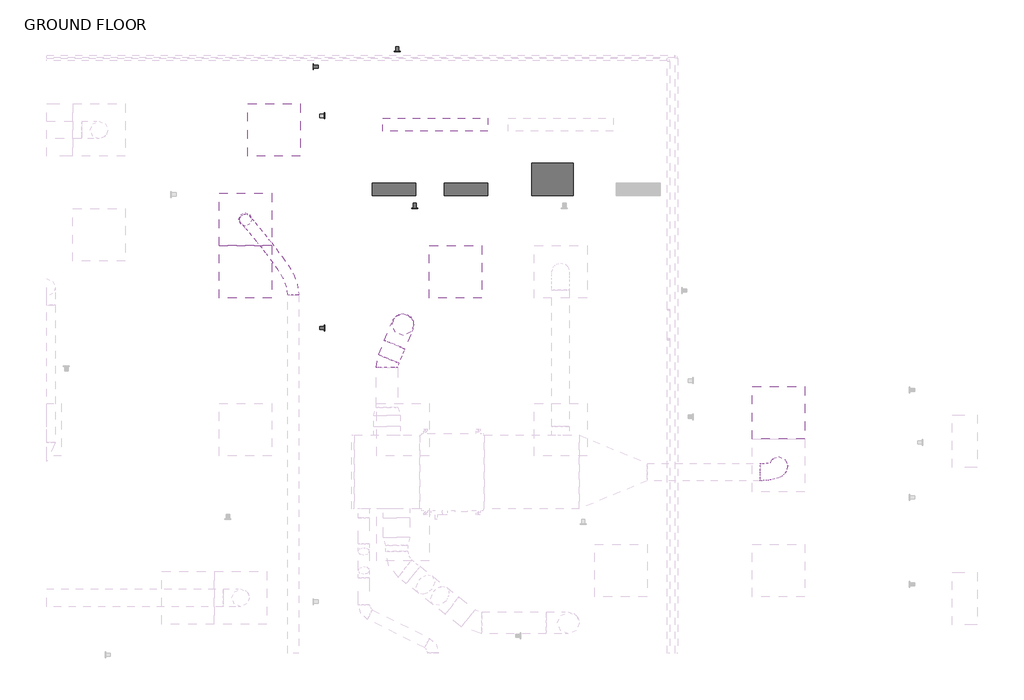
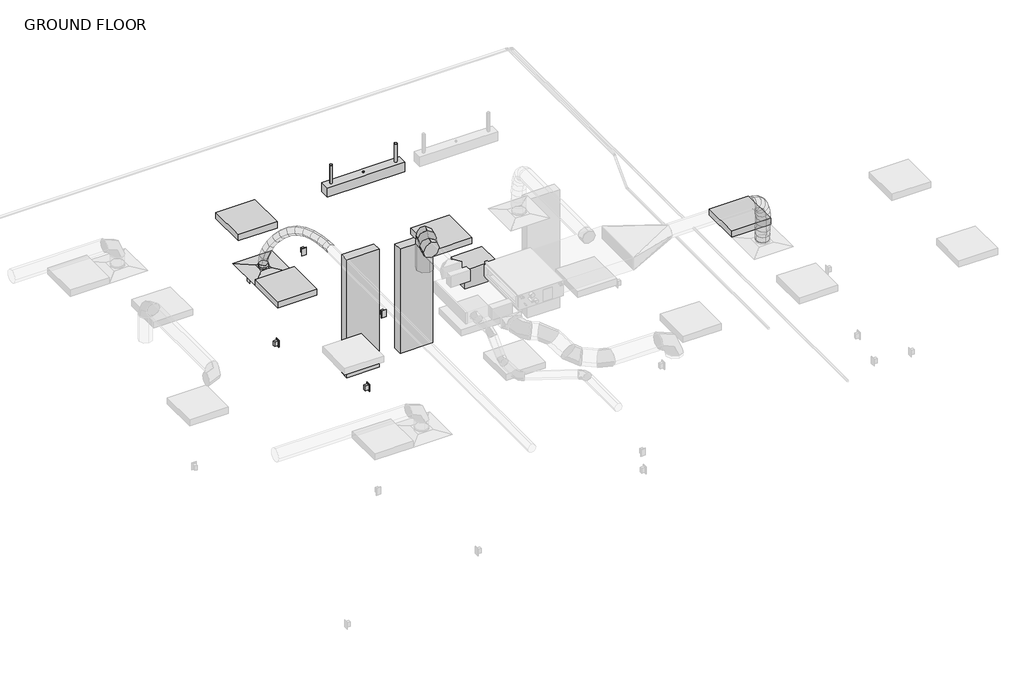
# One storey, part 20 of 21: 5 light fixtures, 5 proxies, 4 duct segments, 3 duct fittings, 3 switching devices, 1 air terminal.
"""IFC4 building model written with IfcOpenShell, lengths in millimetres."""

from ifc_helpers import new_model, si_unit, point, frame, frame_2d, origin, place, context, project, spatial, circle_curve, ellipse_curve, trimmed, segment, composite_curve, outline, extrude, transform, mapped, element, save
from ifc_brep_helpers import plane_surface, cylinder_surface, advanced_brep
from components import air_terminal_52af7c74, proxy_15_kva_662d63cf, duplex_receptacle_countertop_10251bba, lighting_and_appliance_panelboard_208v_mcb_surface_400_a_1492eeec, lighting_and_appliance_panelboard_480v_mcb_surface_400_a_65176da0, round_elbow_1_d_6fec3262, round_elbow_1_d_5b88d7e2, round_transition_angle_45_degree_fe5c3047, suspended_fluorescent_strip_non_hosted_strip_light_1x4_120v_4ea4ccb3, troffer_corner_insert_2x2_3lamp_e67c7f8f

model = new_model("IFC4")

# Units and contexts
model_context = context("Model", 3, world=origin())
ifc_project = project(units=[si_unit("LENGTHUNIT", "METRE", prefix="MILLI")], contexts=[model_context])

# Site, building, storey
site = spatial("IfcSite", under=ifc_project)
building = spatial("IfcBuilding", under=site)
storey = spatial("IfcBuildingStorey", under=building, Name="GROUND FLOOR", Elevation=30480.0)

# Air terminal
placement = place(None, origin())
air_terminal_shape = air_terminal_52af7c74(model_context)
element("IfcAirTerminal", 1, ObjectType="Supply Diffuser - Rectangular Face Round Neck - Hosted : 24\"x24\" Face 6\" Neck - Hosted", at=placement, inside=storey, context=model_context, shape_type="MappedRepresentation", body=[
    mapped(air_terminal_shape, transform((8382.9545393, 5773.1445005, 33223.2), x_axis=(0.0, -1.0, 0.0), y_axis=(-1.0, 0.0, 0.0), z_axis=(0.0, 0.0, -1.0))),
])

# Proxies
proxy_15_kva_shape = proxy_15_kva_662d63cf(model_context)
element("IfcBuildingElementProxy", 2, Name="Dry Type Transformer - 480-208Y120 - NEMA Type 3R : 15 kVA", ObjectType="Dry Type Transformer - 480-208Y120 - NEMA Type 3R : 15 kVA", at=placement, inside=storey, context=model_context, shape_type="MappedRepresentation", body=[
    mapped(proxy_15_kva_shape, transform((11944.9930047, 6049.3695005, 31699.2), x_axis=(-1.0, 0.0, 0.0), y_axis=(0.0, 0.0, 1.0), z_axis=(0.0, 1.0, 0.0))),
])
duplex_receptacle_countertop_shape = duplex_receptacle_countertop_10251bba(model_context)
element("IfcBuildingElementProxy", 3, Name="Duplex Receptacle : Countertop", ObjectType="Duplex Receptacle : Countertop", at=placement, inside=storey, context=model_context, shape_type="MappedRepresentation", body=[
    mapped(duplex_receptacle_countertop_shape, transform((10347.0005995, 5906.4945005, 31699.2), x_axis=(1.0, 0.0, 0.0), y_axis=(0.0, 0.0, 1.0), z_axis=(0.0, -1.0, 0.0))),
])
element("IfcBuildingElementProxy", 4, Name="Duplex Receptacle : Standard", ObjectType="Duplex Receptacle : Standard", at=placement, inside=storey, context=model_context, shape_type="MappedRepresentation", body=[
    mapped(duplex_receptacle_countertop_shape, transform((9297.3545393, 6976.0330864, 30937.2), x_axis=(0.0, 1.0, 0.0), y_axis=(0.0, 0.0, 1.0), z_axis=(1.0, 0.0, 0.0))),
])
lighting_and_appliance_panelboard_208v_mcb_surface_400_a_shape = lighting_and_appliance_panelboard_208v_mcb_surface_400_a_1492eeec(model_context)
element("IfcBuildingElementProxy", 5, Name="Lighting and Appliance Panelboard - 208V MCB - Surface : 400 A", ObjectType="Lighting and Appliance Panelboard - 208V MCB - Surface : 400 A", at=placement, inside=storey, context=model_context, shape_type="MappedRepresentation", body=[
    mapped(lighting_and_appliance_panelboard_208v_mcb_surface_400_a_shape, transform((10202.0902446, 6049.3695005, 31935.3056703), x_axis=(-1.0, 0.0, 0.0), y_axis=(0.0, 0.0, 1.0), z_axis=(0.0, 1.0, 0.0))),
])
lighting_and_appliance_panelboard_480v_mcb_surface_400_a_shape = lighting_and_appliance_panelboard_480v_mcb_surface_400_a_65176da0(model_context)
element("IfcBuildingElementProxy", 6, Name="Lighting and Appliance Panelboard - 480V MCB - Surface : 400 A", ObjectType="Lighting and Appliance Panelboard - 480V MCB - Surface : 400 A", at=placement, inside=storey, context=model_context, shape_type="MappedRepresentation", body=[
    mapped(lighting_and_appliance_panelboard_480v_mcb_surface_400_a_shape, transform((11043.3905267, 6049.3695005, 32181.8), x_axis=(-1.0, 0.0, 0.0), y_axis=(0.0, 0.0, 1.0), z_axis=(0.0, 1.0, 0.0))),
])

# Duct fittings
round_elbow_1_d_shape = round_elbow_1_d_6fec3262(model_context)
element("IfcDuctFitting", 7, ObjectType="Round Elbow : 1 D", at=placement, inside=storey, context=model_context, shape_type="MappedRepresentation", body=[
    mapped(round_elbow_1_d_shape, transform((10211.7545393, 4553.9445005, 33992.34375), x_axis=(0.0, 0.0, 1.0), y_axis=(-0.3851088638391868, -0.9228711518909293, 0.0), z_axis=(0.9228711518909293, -0.3851088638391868, 0.0))),
])
round_elbow_1_d_2_shape = round_elbow_1_d_5b88d7e2(model_context)
element("IfcDuctFitting", 8, ObjectType="Round Elbow : 1 D", at=placement, inside=storey, context=model_context, shape_type="MappedRepresentation", body=[
    mapped(round_elbow_1_d_2_shape, transform((10025.6343566, 4107.927897, 33992.34375), x_axis=(-0.3851088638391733, -0.9228711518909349, 0.0), y_axis=(0.9228711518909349, -0.3851088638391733, 0.0), z_axis=(0.0, 0.0, 1.0))),
])
round_transition_angle_45_degree_shape = round_transition_angle_45_degree_fe5c3047(model_context)
element("IfcDuctFitting", 9, ObjectType="Round Transition - Angle : 45 Degree", at=placement, inside=storey, context=model_context, shape_type="MappedRepresentation", body=[
    mapped(round_transition_angle_45_degree_shape, transform((8382.9545393, 5773.1445005, 33277.175), x_axis=(0.0, 0.0, 1.0), y_axis=(-1.0, 0.0, 0.0), z_axis=(0.0, -1.0, 0.0))),
])

# Duct segments
element("IfcDuctSegment", 10, ObjectType="Flex - Round", at=placement, inside=storey, context=model_context, shape_type="AdvancedBrep", body=[
    advanced_brep(
    [(8875.0795393, 4896.3149962, 33877.25), (8938.5795393, 4896.3149962, 33813.75), (9002.0795393, 4896.3149962, 33877.25), (8938.5795393, 4896.3149962, 33940.75), (8875.0795393, 4900.3038046, 33877.25), (8938.5795393, 4909.5361865, 33813.75), (9002.0795393, 4909.5539532, 33877.25), (8938.5795393, 4900.3215713, 33940.75), (8338.604224, 5727.6989338, 33307.8355122), (8337.5089726, 5817.4948158, 33307.8355122), (8427.3048546, 5818.5900672, 33307.8355122), (8428.400106, 5728.7941852, 33307.8355122), (8861.7752013, 4990.6695027, 33890.5032308), (8922.2729998, 5020.2934315, 33829.9938996), (8985.5119056, 5022.0846017, 33893.7539908), (8925.0141071, 4992.4606728, 33954.263322), (8825.981243, 5084.0617016, 33920.4442463), (8880.6868552, 5128.7983771, 33864.779977), (8941.8409065, 5136.0292683, 33930.2840123), (8887.1352943, 5091.2925928, 33985.9482816), (8772.9159642, 5175.8416872, 33952.6027456), (8825.4102432, 5224.4030127, 33898.2785833), (8881.0746783, 5241.1285661, 33967.1094233), (8828.5803992, 5192.5672406, 34021.4335856), (8709.4846671, 5265.8815311, 33970.3939375), (8765.8933553, 5308.8864072, 33914.9718629), (8811.534355, 5339.8400877, 33986.6140732), (8755.1256668, 5296.8352116, 34042.0361478), (8642.7696454, 5354.1391576, 33958.5230341), (8707.1321016, 5386.6219555, 33904.5162091), (8740.4276847, 5433.9074476, 33973.9617439), (8676.0652285, 5401.4246498, 34027.9685689), (8576.8132371, 5438.7318064, 33915.6918877), (8648.5038184, 5461.8158886, 33866.4438423), (8671.3759607, 5522.4700054, 33929.120544), (8599.6853793, 5499.3859232, 33978.3685895), (8514.1867553, 5517.0579007, 33847.0003565), (8591.332672, 5533.3190688, 33803.7359672), (8606.6128367, 5603.4683693, 33858.0854478), (8529.46692, 5587.2072012, 33901.3498371), (8457.422537, 5586.5831577, 33757.8199861), (8538.6709568, 5597.8195479, 33721.0009027), (8548.3996791, 5674.7682985, 33766.6286972), (8467.1512592, 5663.5319082, 33803.4477805), (8409.0358019, 5644.8113766, 33653.6918895), (8493.5148014, 5652.1601125, 33623.8250032), (8499.0149716, 5734.1974695, 33660.3529674), (8414.535972, 5726.8487337, 33690.2198537), (8371.4969323, 5689.3105329, 33540.2274557), (8458.6070173, 5693.5403394, 33518.3132496), (8460.7820351, 5779.5193834, 33544.7906573), (8373.6719501, 5775.2895769, 33566.7048634), (8347.2298434, 5717.7086856, 33423.0472025), (8436.3228222, 5719.618044, 33410.7079394), (8436.070658, 5808.437457, 33425.465037), (8346.9776792, 5806.5280986, 33437.8043001), (8338.604224, 5727.6989338, 33314.7175033), (8428.400106, 5728.7941852, 33311.2060458), (8427.3048546, 5818.5900672, 33315.3747588), (8337.5089726, 5817.4948158, 33318.8862163)],
    [
        (0, 1, circle_curve(frame((8938.5795393, 4896.3149962, 33877.25), z_axis=(0.0, -1.0, 0.0), x_axis=(-1.0, 0.0, 0.0)), 63.5)),
        (1, 2, circle_curve(frame((8938.5795393, 4896.3149962, 33877.25), z_axis=(0.0, -1.0, 0.0), x_axis=(-1.0, 0.0, 0.0)), 63.5)),
        (2, 3, circle_curve(frame((8938.5795393, 4896.3149962, 33877.25), z_axis=(0.0, -1.0, 0.0), x_axis=(-1.0, 0.0, 0.0)), 63.5)),
        (3, 0, circle_curve(frame((8938.5795393, 4896.3149962, 33877.25), z_axis=(0.0, -1.0, 0.0), x_axis=(-1.0, 0.0, 0.0)), 63.5)),
        (0, 4),
        (4, 5, ellipse_curve(frame((8938.5795393, 4904.9288789, 33877.25), z_axis=(0.0724539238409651, -0.9947568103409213, -0.07217559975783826), x_axis=(-0.7047515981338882, -0.10226870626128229, 0.7020443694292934)), 63.8346974, 63.5)),
        (5, 1),
        (5, 6, ellipse_curve(frame((8938.5795393, 4904.9288789, 33877.25), z_axis=(0.0724539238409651, -0.9947568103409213, -0.07217559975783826), x_axis=(-0.7047515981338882, -0.10226870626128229, 0.7020443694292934)), 63.8346974, 63.5)),
        (6, 2),
        (6, 7, ellipse_curve(frame((8938.5795393, 4904.9288789, 33877.25), z_axis=(0.0724539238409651, -0.9947568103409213, -0.07217559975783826), x_axis=(-0.7047515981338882, -0.10226870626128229, 0.7020443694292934)), 63.8346974, 63.5)),
        (7, 3),
        (7, 4, ellipse_curve(frame((8938.5795393, 4904.9288789, 33877.25), z_axis=(0.0724539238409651, -0.9947568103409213, -0.07217559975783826), x_axis=(-0.7047515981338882, -0.10226870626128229, 0.7020443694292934)), 63.8346974, 63.5)),
        (8, 9, circle_curve(frame((8382.9545393, 5773.1445005, 33307.8355122), z_axis=(0.0, 0.0, -1.0), x_axis=(-0.6984301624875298, -0.7156782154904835, 0.0)), 63.5)),
        (9, 10, circle_curve(frame((8382.9545393, 5773.1445005, 33307.8355122), z_axis=(0.0, 0.0, -1.0), x_axis=(-0.6984301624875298, -0.7156782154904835, 0.0)), 63.5)),
        (10, 11, circle_curve(frame((8382.9545393, 5773.1445005, 33307.8355122), z_axis=(0.0, 0.0, -1.0), x_axis=(-0.6984301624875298, -0.7156782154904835, 0.0)), 63.5)),
        (11, 8, circle_curve(frame((8382.9545393, 5773.1445005, 33307.8355122), z_axis=(0.0, 0.0, -1.0), x_axis=(-0.6984301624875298, -0.7156782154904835, 0.0)), 63.5)),
        (4, 12),
        (12, 13, ellipse_curve(frame((8923.6435535, 5006.3770522, 33892.1286108), z_axis=(0.2455671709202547, -0.9447748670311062, -0.21701892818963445), x_axis=(-0.7668880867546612, -0.3262774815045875, 0.5526532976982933)), 64.0396622, 63.5)),
        (13, 5),
        (13, 14, ellipse_curve(frame((8923.6435535, 5006.3770522, 33892.1286108), z_axis=(0.2455671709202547, -0.9447748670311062, -0.21701892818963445), x_axis=(-0.7668880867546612, -0.3262774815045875, 0.5526532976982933)), 64.0396622, 63.5)),
        (14, 6),
        (14, 15, ellipse_curve(frame((8923.6435535, 5006.3770522, 33892.1286108), z_axis=(0.2455671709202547, -0.9447748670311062, -0.21701892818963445), x_axis=(-0.7668880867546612, -0.3262774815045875, 0.5526532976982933)), 64.0396622, 63.5)),
        (15, 7),
        (15, 12, ellipse_curve(frame((8923.6435535, 5006.3770522, 33892.1286108), z_axis=(0.2455671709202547, -0.9447748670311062, -0.21701892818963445), x_axis=(-0.7668880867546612, -0.3262774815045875, 0.5526532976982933)), 64.0396622, 63.5)),
        (12, 16),
        (16, 17, ellipse_curve(frame((8883.9110747, 5110.0454849, 33925.3641293), z_axis=(0.4120992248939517, -0.8639704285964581, -0.2893602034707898), x_axis=(-0.8993219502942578, -0.4366794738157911, 0.02304488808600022)), 63.6826798, 63.5)),
        (17, 13),
        (17, 18, ellipse_curve(frame((8883.9110747, 5110.0454849, 33925.3641293), z_axis=(0.4120992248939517, -0.8639704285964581, -0.2893602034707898), x_axis=(-0.8993219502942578, -0.4366794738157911, 0.02304488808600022)), 63.6826798, 63.5)),
        (18, 14),
        (18, 19, ellipse_curve(frame((8883.9110747, 5110.0454849, 33925.3641293), z_axis=(0.4120992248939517, -0.8639704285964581, -0.2893602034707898), x_axis=(-0.8993219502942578, -0.4366794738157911, 0.02304488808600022)), 63.6826798, 63.5)),
        (19, 15),
        (19, 16, ellipse_curve(frame((8883.9110747, 5110.0454849, 33925.3641293), z_axis=(0.4120992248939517, -0.8639704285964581, -0.2893602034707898), x_axis=(-0.8993219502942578, -0.4366794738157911, 0.02304488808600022)), 63.6826798, 63.5)),
        (16, 20),
        (20, 21, ellipse_curve(frame((8826.9953212, 5208.4851266, 33959.8560844), z_axis=(0.5254508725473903, -0.820371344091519, -0.22559308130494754), x_axis=(-0.5598715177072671, -0.13373708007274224, -0.8177152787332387)), 63.7040983, 63.5)),
        (21, 17),
        (21, 22, ellipse_curve(frame((8826.9953212, 5208.4851266, 33959.8560844), z_axis=(0.5254508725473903, -0.820371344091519, -0.22559308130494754), x_axis=(-0.5598715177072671, -0.13373708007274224, -0.8177152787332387)), 63.7040983, 63.5)),
        (22, 18),
        (22, 23, ellipse_curve(frame((8826.9953212, 5208.4851266, 33959.8560844), z_axis=(0.5254508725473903, -0.820371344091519, -0.22559308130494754), x_axis=(-0.5598715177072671, -0.13373708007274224, -0.8177152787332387)), 63.7040983, 63.5)),
        (23, 19),
        (23, 20, ellipse_curve(frame((8826.9953212, 5208.4851266, 33959.8560844), z_axis=(0.5254508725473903, -0.820371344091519, -0.22559308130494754), x_axis=(-0.5598715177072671, -0.13373708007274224, -0.8177152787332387)), 63.7040983, 63.5)),
        (20, 24),
        (24, 25, ellipse_curve(frame((8760.509511, 5302.8608094, 33978.5040053), z_axis=(0.5893883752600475, -0.8074107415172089, -0.026631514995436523), x_axis=(-0.11562901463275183, -0.05168788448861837, -0.9919467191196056)), 64.0792607, 63.5)),
        (25, 21),
        (25, 26, ellipse_curve(frame((8760.509511, 5302.8608094, 33978.5040053), z_axis=(0.5893883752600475, -0.8074107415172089, -0.026631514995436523), x_axis=(-0.11562901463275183, -0.05168788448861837, -0.9919467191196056)), 64.0792607, 63.5)),
        (26, 22),
        (26, 27, ellipse_curve(frame((8760.509511, 5302.8608094, 33978.5040053), z_axis=(0.5893883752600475, -0.8074107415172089, -0.026631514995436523), x_axis=(-0.11562901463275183, -0.05168788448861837, -0.9919467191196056)), 64.0792607, 63.5)),
        (27, 23),
        (27, 24, ellipse_curve(frame((8760.509511, 5302.8608094, 33978.5040053), z_axis=(0.5893883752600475, -0.8074107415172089, -0.026631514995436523), x_axis=(-0.11562901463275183, -0.05168788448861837, -0.9919467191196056)), 64.0792607, 63.5)),
        (24, 28),
        (28, 29, ellipse_curve(frame((8691.598665, 5394.0233026, 33966.242389), z_axis=(0.5908188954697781, -0.7699676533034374, 0.24100382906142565), x_axis=(0.10468290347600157, -0.22303027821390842, -0.9691743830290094)), 64.0979367, 63.5)),
        (29, 25),
        (29, 30, ellipse_curve(frame((8691.598665, 5394.0233026, 33966.242389), z_axis=(0.5908188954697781, -0.7699676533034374, 0.24100382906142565), x_axis=(0.10468290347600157, -0.22303027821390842, -0.9691743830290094)), 64.0979367, 63.5)),
        (30, 26),
        (30, 31, ellipse_curve(frame((8691.598665, 5394.0233026, 33966.242389), z_axis=(0.5908188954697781, -0.7699676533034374, 0.24100382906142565), x_axis=(0.10468290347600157, -0.22303027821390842, -0.9691743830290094)), 64.0979367, 63.5)),
        (31, 27),
        (31, 28, ellipse_curve(frame((8691.598665, 5394.0233026, 33966.242389), z_axis=(0.5908188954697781, -0.7699676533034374, 0.24100382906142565), x_axis=(0.10468290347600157, -0.22303027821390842, -0.9691743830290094)), 64.0979367, 63.5)),
        (28, 32),
        (32, 33, ellipse_curve(frame((8624.0945989, 5480.6009059, 33922.4062159), z_axis=(0.5464575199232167, -0.6926016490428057, 0.47083663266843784), x_axis=(0.25322512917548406, -0.39924269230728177, -0.8811823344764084)), 63.8893967, 63.5)),
        (33, 29),
        (33, 34, ellipse_curve(frame((8624.0945989, 5480.6009059, 33922.4062159), z_axis=(0.5464575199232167, -0.6926016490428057, 0.47083663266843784), x_axis=(0.25322512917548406, -0.39924269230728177, -0.8811823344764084)), 63.8893967, 63.5)),
        (34, 30),
        (34, 35, ellipse_curve(frame((8624.0945989, 5480.6009059, 33922.4062159), z_axis=(0.5464575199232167, -0.6926016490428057, 0.47083663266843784), x_axis=(0.25322512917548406, -0.39924269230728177, -0.8811823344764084)), 63.8893967, 63.5)),
        (35, 31),
        (35, 32, ellipse_curve(frame((8624.0945989, 5480.6009059, 33922.4062159), z_axis=(0.5464575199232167, -0.6926016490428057, 0.47083663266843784), x_axis=(0.25322512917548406, -0.39924269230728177, -0.8811823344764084)), 63.8893967, 63.5)),
        (32, 36),
        (36, 37, ellipse_curve(frame((8560.399796, 5560.263135, 33852.5429021), z_axis=(0.4839202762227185, -0.5994034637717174, 0.6376022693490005), x_axis=(0.3667362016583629, -0.5226240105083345, -0.7696549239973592)), 63.763231, 63.5)),
        (37, 33),
        (37, 38, ellipse_curve(frame((8560.399796, 5560.263135, 33852.5429021), z_axis=(0.4839202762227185, -0.5994034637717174, 0.6376022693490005), x_axis=(0.3667362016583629, -0.5226240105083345, -0.7696549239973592)), 63.763231, 63.5)),
        (38, 34),
        (38, 39, ellipse_curve(frame((8560.399796, 5560.263135, 33852.5429021), z_axis=(0.4839202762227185, -0.5994034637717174, 0.6376022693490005), x_axis=(0.3667362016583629, -0.5226240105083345, -0.7696549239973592)), 63.763231, 63.5)),
        (39, 35),
        (39, 36, ellipse_curve(frame((8560.399796, 5560.263135, 33852.5429021), z_axis=(0.4839202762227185, -0.5994034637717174, 0.6376022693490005), x_axis=(0.3667362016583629, -0.5226240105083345, -0.7696549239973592)), 63.763231, 63.5)),
        (36, 40),
        (40, 41, ellipse_curve(frame((8502.911108, 5630.6757281, 33762.2243416), z_axis=(0.4135615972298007, -0.5024960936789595, 0.7592525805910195), x_axis=(0.45530595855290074, -0.6080085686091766, -0.650401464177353)), 63.7038498, 63.5)),
        (41, 37),
        (41, 42, ellipse_curve(frame((8502.911108, 5630.6757281, 33762.2243416), z_axis=(0.4135615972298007, -0.5024960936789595, 0.7592525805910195), x_axis=(0.45530595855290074, -0.6080085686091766, -0.650401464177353)), 63.7038498, 63.5)),
        (42, 38),
        (42, 43, ellipse_curve(frame((8502.911108, 5630.6757281, 33762.2243416), z_axis=(0.4135615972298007, -0.5024960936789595, 0.7592525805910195), x_axis=(0.45530595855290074, -0.6080085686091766, -0.650401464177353)), 63.7038498, 63.5)),
        (43, 39),
        (43, 40, ellipse_curve(frame((8502.911108, 5630.6757281, 33762.2243416), z_axis=(0.4135615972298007, -0.5024960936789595, 0.7592525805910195), x_axis=(0.45530595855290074, -0.6080085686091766, -0.650401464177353)), 63.7038498, 63.5)),
        (40, 44),
        (44, 45, ellipse_curve(frame((8454.0253867, 5689.5044231, 33657.0224284), z_axis=(0.3361041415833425, -0.4018113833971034, 0.8518107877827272), x_axis=(0.5274534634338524, -0.6689851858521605, -0.5236904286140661)), 63.6902982, 63.5)),
        (45, 41),
        (45, 46, ellipse_curve(frame((8454.0253867, 5689.5044231, 33657.0224284), z_axis=(0.3361041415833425, -0.4018113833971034, 0.8518107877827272), x_axis=(0.5274534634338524, -0.6689851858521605, -0.5236904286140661)), 63.6902982, 63.5)),
        (46, 42),
        (46, 47, ellipse_curve(frame((8454.0253867, 5689.5044231, 33657.0224284), z_axis=(0.3361041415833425, -0.4018113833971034, 0.8518107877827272), x_axis=(0.5274534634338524, -0.6689851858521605, -0.5236904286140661)), 63.6902982, 63.5)),
        (47, 43),
        (47, 44, ellipse_curve(frame((8454.0253867, 5689.5044231, 33657.0224284), z_axis=(0.3361041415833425, -0.4018113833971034, 0.8518107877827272), x_axis=(0.5274534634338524, -0.6689851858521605, -0.5236904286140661)), 63.6902982, 63.5)),
        (44, 48),
        (48, 49, ellipse_curve(frame((8416.1394837, 5734.4149581, 33542.5090565), z_axis=(0.24667702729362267, -0.2909118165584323, 0.9244029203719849), x_axis=(0.5870839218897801, -0.7140601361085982, -0.3813798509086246)), 63.7180133, 63.5)),
        (49, 45),
        (49, 50, ellipse_curve(frame((8416.1394837, 5734.4149581, 33542.5090565), z_axis=(0.24667702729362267, -0.2909118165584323, 0.9244029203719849), x_axis=(0.5870839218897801, -0.7140601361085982, -0.3813798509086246)), 63.7180133, 63.5)),
        (50, 46),
        (50, 51, ellipse_curve(frame((8416.1394837, 5734.4149581, 33542.5090565), z_axis=(0.24667702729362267, -0.2909118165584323, 0.9244029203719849), x_axis=(0.5870839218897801, -0.7140601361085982, -0.3813798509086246)), 63.7180133, 63.5)),
        (51, 47),
        (51, 48, ellipse_curve(frame((8416.1394837, 5734.4149581, 33542.5090565), z_axis=(0.24667702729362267, -0.2909118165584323, 0.9244029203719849), x_axis=(0.5870839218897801, -0.7140601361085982, -0.3813798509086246)), 63.7180133, 63.5)),
        (48, 52),
        (52, 53, ellipse_curve(frame((8391.6502507, 5763.0730713, 33424.2561198), z_axis=(0.1387827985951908, -0.1619308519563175, 0.97699423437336), x_axis=(0.6321873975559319, -0.7448878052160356, -0.21326333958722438)), 63.7796424, 63.5)),
        (53, 49),
        (53, 54, ellipse_curve(frame((8391.6502507, 5763.0730713, 33424.2561198), z_axis=(0.1387827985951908, -0.1619308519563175, 0.97699423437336), x_axis=(0.6321873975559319, -0.7448878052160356, -0.21326333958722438)), 63.7796424, 63.5)),
        (54, 50),
        (54, 55, ellipse_curve(frame((8391.6502507, 5763.0730713, 33424.2561198), z_axis=(0.1387827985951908, -0.1619308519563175, 0.97699423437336), x_axis=(0.6321873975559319, -0.7448878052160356, -0.21326333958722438)), 63.7796424, 63.5)),
        (55, 51),
        (55, 52, ellipse_curve(frame((8391.6502507, 5763.0730713, 33424.2561198), z_axis=(0.1387827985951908, -0.1619308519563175, 0.97699423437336), x_axis=(0.6321873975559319, -0.7448878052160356, -0.21326333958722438)), 63.7796424, 63.5)),
        (52, 56),
        (56, 57, ellipse_curve(frame((8382.9545393, 5773.1445005, 33315.046131), z_axis=(0.039592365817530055, -0.04585613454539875, 0.9981631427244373), x_axis=(0.6523186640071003, -0.755519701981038, -0.060583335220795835)), 63.6168551, 63.5)),
        (57, 53),
        (57, 58, ellipse_curve(frame((8382.9545393, 5773.1445005, 33315.046131), z_axis=(0.039592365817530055, -0.04585613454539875, 0.9981631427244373), x_axis=(0.6523186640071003, -0.755519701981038, -0.060583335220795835)), 63.6168551, 63.5)),
        (58, 54),
        (58, 59, ellipse_curve(frame((8382.9545393, 5773.1445005, 33315.046131), z_axis=(0.039592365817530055, -0.04585613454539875, 0.9981631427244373), x_axis=(0.6523186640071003, -0.755519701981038, -0.060583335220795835)), 63.6168551, 63.5)),
        (59, 55),
        (59, 56, ellipse_curve(frame((8382.9545393, 5773.1445005, 33315.046131), z_axis=(0.039592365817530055, -0.04585613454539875, 0.9981631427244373), x_axis=(0.6523186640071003, -0.755519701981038, -0.060583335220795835)), 63.6168551, 63.5)),
        (56, 8),
        (11, 57),
        (10, 58),
        (9, 59),
    ],
    [
        plane_surface(frame((8875.0795393, 4896.3149962, 33877.25), z_axis=(0.0, -1.0, 0.0), x_axis=(0.0, 0.0, 1.0))),
        cylinder_surface(frame((8938.5795393, 4896.3149962, 33877.25), z_axis=(0.0, -1.0, 0.0), x_axis=(-1.0, 0.0, 0.0)), 63.5),
        plane_surface(frame((8382.9545393, 5709.6445005, 33307.8355122), z_axis=(0.0, 0.0, -1.0), x_axis=(-1.0, 0.0, 0.0))),
        cylinder_surface(frame((8938.5795393, 4904.9288789, 33877.25), z_axis=(0.144148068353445, -0.979082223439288, -0.14359433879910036), x_axis=(-0.9895008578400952, -0.144148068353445, -0.010458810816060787)), 63.5),
        cylinder_surface(frame((8923.6435535, 5006.3770522, 33892.1286108), z_axis=(0.3428474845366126, -0.8945442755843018, -0.2867858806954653), x_axis=(-0.9381617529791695, -0.34166590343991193, -0.05582952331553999)), 63.5),
        cylinder_surface(frame((8883.9110747, 5110.0454849, 33925.3641293), z_axis=(0.47898667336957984, -0.828439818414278, -0.2902744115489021), x_axis=(-0.8761229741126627, -0.4717308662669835, -0.09939076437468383)), 63.5),
        cylinder_surface(frame((8826.9953212, 5208.4851266, 33959.8560844), z_axis=(0.5685481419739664, -0.8070461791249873, -0.15946621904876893), x_axis=(-0.8225866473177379, -0.5553155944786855, -0.1223756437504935)), 63.5),
        cylinder_surface(frame((8760.509511, 5302.8608094, 33978.5040053), z_axis=(0.5995727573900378, -0.7931777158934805, 0.10668467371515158), x_axis=(-0.7834557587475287, -0.6089215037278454, -0.12414377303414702)), 63.5),
        cylinder_surface(frame((8691.598665, 5394.0233026, 33966.242389), z_axis=(0.5710421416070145, -0.7323923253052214, 0.37082658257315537), x_axis=(-0.7551558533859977, -0.645802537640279, -0.1125998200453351)), 63.5),
        cylinder_surface(frame((8624.0945989, 5480.6009059, 33922.4062159), z_axis=(0.5152117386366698, -0.6443683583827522, 0.5651073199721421), x_axis=(-0.7350540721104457, -0.6712803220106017, -0.09527980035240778)), 63.5),
        cylinder_surface(frame((8560.399796, 5560.263135, 33852.5429021), z_axis=(0.44863331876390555, -0.5494895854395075, 0.7048328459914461), x_axis=(-0.7214167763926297, -0.6881720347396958, -0.07731161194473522)), 63.5),
        cylinder_surface(frame((8502.911108, 5630.6757281, 33762.2243416), z_axis=(0.37584311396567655, -0.45228666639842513, 0.80881315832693), x_axis=(-0.7121153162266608, -0.6994737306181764, -0.06023517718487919)), 63.5),
        cylinder_surface(frame((8454.0253867, 5689.5044231, 33657.0224284), z_axis=(0.2943566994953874, -0.34893498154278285, 0.8897182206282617), x_axis=(-0.705663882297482, -0.707186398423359, -0.04388488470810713)), 63.5),
        cylinder_surface(frame((8416.1394837, 5734.4149581, 33542.5090565), z_axis=(0.1973093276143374, -0.2308979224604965, 0.9527618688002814), x_axis=(-0.701268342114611, -0.7123701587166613, -0.027412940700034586)), 63.5),
        cylinder_surface(frame((8391.6502507, 5763.0730713, 33424.2561198), z_axis=(0.0790392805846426, -0.09154380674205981, 0.9926593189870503), x_axis=(-0.6988392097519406, -0.7152044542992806, -0.01031249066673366)), 63.5),
        cylinder_surface(frame((8382.9545393, 5773.1445005, 33315.046131), z_axis=(0.0, 0.0, 1.0), x_axis=(-0.6984301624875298, -0.7156782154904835, 0.0)), 63.5),
    ],
    [
        (0, [[1, 2, 3, 4]]),
        (1, [[-1, 5, 6, 7]]),
        (1, [[-2, -7, 8, 9]]),
        (1, [[-3, -9, 10, 11]]),
        (1, [[-4, -11, 12, -5]]),
        (2, [[13, 14, 15, 16]]),
        (3, [[-6, 17, 18, 19]]),
        (3, [[-8, -19, 20, 21]]),
        (3, [[-10, -21, 22, 23]]),
        (3, [[-12, -23, 24, -17]]),
        (4, [[-18, 25, 26, 27]]),
        (4, [[-20, -27, 28, 29]]),
        (4, [[-22, -29, 30, 31]]),
        (4, [[-24, -31, 32, -25]]),
        (5, [[-26, 33, 34, 35]]),
        (5, [[-28, -35, 36, 37]]),
        (5, [[-30, -37, 38, 39]]),
        (5, [[-32, -39, 40, -33]]),
        (6, [[-34, 41, 42, 43]]),
        (6, [[-36, -43, 44, 45]]),
        (6, [[-38, -45, 46, 47]]),
        (6, [[-40, -47, 48, -41]]),
        (7, [[-42, 49, 50, 51]]),
        (7, [[-44, -51, 52, 53]]),
        (7, [[-46, -53, 54, 55]]),
        (7, [[-48, -55, 56, -49]]),
        (8, [[-50, 57, 58, 59]]),
        (8, [[-52, -59, 60, 61]]),
        (8, [[-54, -61, 62, 63]]),
        (8, [[-56, -63, 64, -57]]),
        (9, [[-58, 65, 66, 67]]),
        (9, [[-60, -67, 68, 69]]),
        (9, [[-62, -69, 70, 71]]),
        (9, [[-64, -71, 72, -65]]),
        (10, [[-66, 73, 74, 75]]),
        (10, [[-68, -75, 76, 77]]),
        (10, [[-70, -77, 78, 79]]),
        (10, [[-72, -79, 80, -73]]),
        (11, [[-74, 81, 82, 83]]),
        (11, [[-76, -83, 84, 85]]),
        (11, [[-78, -85, 86, 87]]),
        (11, [[-80, -87, 88, -81]]),
        (12, [[-82, 89, 90, 91]]),
        (12, [[-84, -91, 92, 93]]),
        (12, [[-86, -93, 94, 95]]),
        (12, [[-88, -95, 96, -89]]),
        (13, [[-90, 97, 98, 99]]),
        (13, [[-92, -99, 100, 101]]),
        (13, [[-94, -101, 102, 103]]),
        (13, [[-96, -103, 104, -97]]),
        (14, [[-98, 105, 106, 107]]),
        (14, [[-100, -107, 108, 109]]),
        (14, [[-102, -109, 110, 111]]),
        (14, [[-104, -111, 112, -105]]),
        (15, [[-106, 113, -16, 114]]),
        (15, [[-108, -114, -15, 115]]),
        (15, [[-110, -115, -14, 116]]),
        (15, [[-112, -116, -13, -113]]),
    ],
),
])
element("IfcDuctSegment", 11, ObjectType="Flex - Round", at=placement, inside=storey, context=model_context, shape_type="AdvancedBrep", body=[
    advanced_brep(
    [(14669.4545393, 2918.8195005, 33277.175), (14567.8545393, 2817.2195005, 33277.175), (14466.2545393, 2918.8195005, 33277.175), (14567.8545393, 3020.4195005, 33277.175), (14669.4545393, 2918.8195005, 33279.8547075), (14567.8545393, 2817.2195005, 33278.7618832), (14466.2545393, 2918.8195005, 33280.7980181), (14567.8545393, 3020.4195005, 33281.8908423), (14670.2466059, 2916.1922176, 33365.1427836), (14568.616162, 2814.6931997, 33360.7718304), (14467.0530424, 2916.1708676, 33366.7791677), (14568.6834863, 3017.6698854, 33371.1501209), (14670.9315956, 2909.0188694, 33465.4647279), (14569.2677947, 2807.8691727, 33456.2083879), (14467.7182424, 2909.2047612, 33464.2027585), (14569.3820433, 3010.3544579, 33473.4590985), (14668.8447102, 2898.3986023, 33572.8340621), (14567.3020822, 2797.8655607, 33557.3434305), (14465.7826584, 2899.3544747, 33563.787703), (14567.3252863, 2999.8875163, 33579.2783346), (14661.1005042, 2885.461278, 33682.2201979), (14560.1562908, 2785.9279366, 33658.2770193), (14458.9994567, 2888.0225859, 33659.5997492), (14559.94367, 2987.5559274, 33683.5429279), (14644.2995966, 2871.2387095, 33789.4249914), (14545.2626132, 2773.3199064, 33753.3119824), (14445.6357391, 2876.7097216, 33744.8722008), (14544.6727225, 2974.6285247, 33780.9852098), (14613.5644873, 2856.5939705, 33891.2786024), (14520.0395911, 2761.30158, 33836.8989925), (14425.4367268, 2867.0852475, 33811.8100579), (14518.961623, 2962.377638, 33866.1896679), (14560.3234804, 2842.4095473, 33984.2272659), (14481.828247, 2751.1213466, 33903.6087256), (14401.8418364, 2860.7991171, 33853.0022452), (14480.3370698, 2952.0873178, 33933.6207855), (14477.0345462, 2831.492141, 34052.57981), (14427.8368128, 2744.0442188, 33947.9177556), (14377.2608184, 2857.5770689, 33873.1750944), (14426.4585518, 2945.024991, 33977.8371488), (14393.1398295, 2827.0688797, 34079.362175), (14377.3901647, 2741.384472, 33964.0222327), (14361.0887655, 2856.7244143, 33878.337825), (14376.8384304, 2942.4088219, 33993.6777673), (14355.1295393, 2827.0688797, 34079.362175), (14355.1295393, 2942.4088219, 33993.6777673), (14355.1295393, 2856.7244143, 33878.337825), (14355.1295393, 2741.384472, 33964.0222327)],
    [
        (0, 1, circle_curve(frame((14567.8545393, 2918.8195005, 33277.175), z_axis=(0.0, 0.0, -1.0), x_axis=(1.0, 0.0, 0.0)), 101.6)),
        (1, 2, circle_curve(frame((14567.8545393, 2918.8195005, 33277.175), z_axis=(0.0, 0.0, -1.0), x_axis=(1.0, 0.0, 0.0)), 101.6)),
        (2, 3, circle_curve(frame((14567.8545393, 2918.8195005, 33277.175), z_axis=(0.0, 0.0, -1.0), x_axis=(1.0, 0.0, 0.0)), 101.6)),
        (3, 0, circle_curve(frame((14567.8545393, 2918.8195005, 33277.175), z_axis=(0.0, 0.0, -1.0), x_axis=(1.0, 0.0, 0.0)), 101.6)),
        (0, 4),
        (4, 5, ellipse_curve(frame((14567.8545393, 2918.8195005, 33280.3263628), z_axis=(-0.004641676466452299, 0.015396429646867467, -0.9998706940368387), x_axis=(0.2886080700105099, -0.957312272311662, -0.016080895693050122)), 101.6131392, 101.6)),
        (5, 1),
        (5, 6, ellipse_curve(frame((14567.8545393, 2918.8195005, 33280.3263628), z_axis=(-0.004641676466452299, 0.015396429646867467, -0.9998706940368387), x_axis=(0.2886080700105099, -0.957312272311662, -0.016080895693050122)), 101.6131392, 101.6)),
        (6, 2),
        (6, 7, ellipse_curve(frame((14567.8545393, 2918.8195005, 33280.3263628), z_axis=(-0.004641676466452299, 0.015396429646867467, -0.9998706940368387), x_axis=(0.2886080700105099, -0.957312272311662, -0.016080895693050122)), 101.6131392, 101.6)),
        (7, 3),
        (7, 4, ellipse_curve(frame((14567.8545393, 2918.8195005, 33280.3263628), z_axis=(-0.004641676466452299, 0.015396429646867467, -0.9998706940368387), x_axis=(0.2886080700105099, -0.957312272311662, -0.016080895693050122)), 101.6131392, 101.6)),
        (4, 8),
        (8, 9, ellipse_curve(frame((14568.6498241, 2916.1815426, 33365.9609757), z_axis=(-0.008047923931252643, 0.051064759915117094, -0.9986629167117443), x_axis=(-0.06079481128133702, -0.996872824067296, -0.050483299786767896)), 101.6210003, 101.6)),
        (9, 5),
        (9, 10, ellipse_curve(frame((14568.6498241, 2916.1815426, 33365.9609757), z_axis=(-0.008047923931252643, 0.051064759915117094, -0.9986629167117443), x_axis=(-0.06079481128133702, -0.996872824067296, -0.050483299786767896)), 101.6210003, 101.6)),
        (10, 6),
        (10, 11, ellipse_curve(frame((14568.6498241, 2916.1815426, 33365.9609757), z_axis=(-0.008047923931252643, 0.051064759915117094, -0.9986629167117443), x_axis=(-0.06079481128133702, -0.996872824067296, -0.050483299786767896)), 101.6210003, 101.6)),
        (11, 7),
        (11, 8, ellipse_curve(frame((14568.6498241, 2916.1815426, 33365.9609757), z_axis=(-0.008047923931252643, 0.051064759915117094, -0.9986629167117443), x_axis=(-0.06079481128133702, -0.996872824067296, -0.050483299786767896)), 101.6210003, 101.6)),
        (8, 12),
        (12, 13, ellipse_curve(frame((14569.324919, 2909.1118153, 33464.8337432), z_axis=(0.006265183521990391, 0.08488220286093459, -0.9963712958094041), x_axis=(-0.6929382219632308, -0.718013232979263, -0.06552570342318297)), 101.6180899, 101.6)),
        (13, 9),
        (13, 14, ellipse_curve(frame((14569.324919, 2909.1118153, 33464.8337432), z_axis=(0.006265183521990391, 0.08488220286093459, -0.9963712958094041), x_axis=(-0.6929382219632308, -0.718013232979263, -0.06552570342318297)), 101.6180899, 101.6)),
        (14, 10),
        (14, 15, ellipse_curve(frame((14569.324919, 2909.1118153, 33464.8337432), z_axis=(0.006265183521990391, 0.08488220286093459, -0.9963712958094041), x_axis=(-0.6929382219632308, -0.718013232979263, -0.06552570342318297)), 101.6180899, 101.6)),
        (15, 11),
        (15, 12, ellipse_curve(frame((14569.324919, 2909.1118153, 33464.8337432), z_axis=(0.006265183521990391, 0.08488220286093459, -0.9963712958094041), x_axis=(-0.6929382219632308, -0.718013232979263, -0.06552570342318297)), 101.6180899, 101.6)),
        (12, 16),
        (16, 17, ellipse_curve(frame((14567.3136843, 2898.8765385, 33568.3108826), z_axis=(0.04475266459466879, 0.10782920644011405, -0.9931616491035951), x_axis=(-0.935152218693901, -0.34518349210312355, -0.07961585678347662)), 101.637491, 101.6)),
        (17, 13),
        (17, 18, ellipse_curve(frame((14567.3136843, 2898.8765385, 33568.3108826), z_axis=(0.04475266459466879, 0.10782920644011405, -0.9931616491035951), x_axis=(-0.935152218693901, -0.34518349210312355, -0.07961585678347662)), 101.637491, 101.6)),
        (18, 14),
        (18, 19, ellipse_curve(frame((14567.3136843, 2898.8765385, 33568.3108826), z_axis=(0.04475266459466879, 0.10782920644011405, -0.9931616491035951), x_axis=(-0.935152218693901, -0.34518349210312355, -0.07961585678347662)), 101.637491, 101.6)),
        (19, 15),
        (19, 16, ellipse_curve(frame((14567.3136843, 2898.8765385, 33568.3108826), z_axis=(0.04475266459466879, 0.10782920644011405, -0.9931616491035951), x_axis=(-0.935152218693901, -0.34518349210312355, -0.07961585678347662)), 101.637491, 101.6)),
        (16, 20),
        (20, 21, ellipse_curve(frame((14560.0499804, 2886.741932, 33670.9099736), z_axis=(0.11192577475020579, 0.12367206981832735, -0.9859907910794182), x_axis=(-0.9800340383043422, -0.15035030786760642, -0.13010791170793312)), 101.6920553, 101.6)),
        (21, 17),
        (21, 22, ellipse_curve(frame((14560.0499804, 2886.741932, 33670.9099736), z_axis=(0.11192577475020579, 0.12367206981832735, -0.9859907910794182), x_axis=(-0.9800340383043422, -0.15035030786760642, -0.13010791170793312)), 101.6920553, 101.6)),
        (22, 18),
        (22, 23, ellipse_curve(frame((14560.0499804, 2886.741932, 33670.9099736), z_axis=(0.11192577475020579, 0.12367206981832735, -0.9859907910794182), x_axis=(-0.9800340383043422, -0.15035030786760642, -0.13010791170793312)), 101.6920553, 101.6)),
        (23, 19),
        (23, 20, ellipse_curve(frame((14560.0499804, 2886.741932, 33670.9099736), z_axis=(0.11192577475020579, 0.12367206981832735, -0.9859907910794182), x_axis=(-0.9800340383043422, -0.15035030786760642, -0.13010791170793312)), 101.6920553, 101.6)),
        (20, 24),
        (24, 25, ellipse_curve(frame((14544.9676679, 2873.9742155, 33767.1485961), z_axis=(0.22036722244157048, 0.13347181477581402, -0.9662419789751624), x_axis=(-0.9724624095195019, -0.046980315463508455, -0.22827551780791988)), 101.8372313, 101.6)),
        (25, 21),
        (25, 26, ellipse_curve(frame((14544.9676679, 2873.9742155, 33767.1485961), z_axis=(0.22036722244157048, 0.13347181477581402, -0.9662419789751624), x_axis=(-0.9724624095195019, -0.046980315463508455, -0.22827551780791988)), 101.8372313, 101.6)),
        (26, 22),
        (26, 27, ellipse_curve(frame((14544.9676679, 2873.9742155, 33767.1485961), z_axis=(0.22036722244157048, 0.13347181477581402, -0.9662419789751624), x_axis=(-0.9724624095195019, -0.046980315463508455, -0.22827551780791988)), 101.8372313, 101.6)),
        (27, 23),
        (27, 24, ellipse_curve(frame((14544.9676679, 2873.9742155, 33767.1485961), z_axis=(0.22036722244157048, 0.13347181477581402, -0.9662419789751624), x_axis=(-0.9724624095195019, -0.046980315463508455, -0.22827551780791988)), 101.8372313, 101.6)),
        (24, 28),
        (28, 29, ellipse_curve(frame((14519.500607, 2861.839609, 33851.5443302), z_axis=(0.39194385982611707, 0.13467205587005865, -0.9100788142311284), x_axis=(-0.9194238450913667, 0.022666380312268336, -0.3926143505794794)), 102.2470263, 101.6)),
        (29, 25),
        (29, 30, ellipse_curve(frame((14519.500607, 2861.839609, 33851.5443302), z_axis=(0.39194385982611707, 0.13467205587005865, -0.9100788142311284), x_axis=(-0.9194238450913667, 0.022666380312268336, -0.3926143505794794)), 102.2470263, 101.6)),
        (30, 26),
        (30, 31, ellipse_curve(frame((14519.500607, 2861.839609, 33851.5443302), z_axis=(0.39194385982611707, 0.13467205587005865, -0.9100788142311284), x_axis=(-0.9194238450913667, 0.022666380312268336, -0.3926143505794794)), 102.2470263, 101.6)),
        (31, 27),
        (31, 28, ellipse_curve(frame((14519.500607, 2861.839609, 33851.5443302), z_axis=(0.39194385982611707, 0.13467205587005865, -0.9100788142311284), x_axis=(-0.9194238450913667, 0.022666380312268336, -0.3926143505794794)), 102.2470263, 101.6)),
        (28, 32),
        (32, 33, ellipse_curve(frame((14481.0826584, 2851.6043322, 33918.6147556), z_axis=(0.6413951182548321, 0.11797107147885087, -0.7580864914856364), x_axis=(-0.7671332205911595, 0.08456983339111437, -0.635888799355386)), 103.289209, 101.6)),
        (33, 29),
        (33, 34, ellipse_curve(frame((14481.0826584, 2851.6043322, 33918.6147556), z_axis=(0.6413951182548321, 0.11797107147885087, -0.7580864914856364), x_axis=(-0.7671332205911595, 0.08456983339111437, -0.635888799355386)), 103.289209, 101.6)),
        (34, 30),
        (34, 35, ellipse_curve(frame((14481.0826584, 2851.6043322, 33918.6147556), z_axis=(0.6413951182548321, 0.11797107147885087, -0.7580864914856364), x_axis=(-0.7671332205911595, 0.08456983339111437, -0.635888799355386)), 103.289209, 101.6)),
        (35, 31),
        (35, 32, ellipse_curve(frame((14481.0826584, 2851.6043322, 33918.6147556), z_axis=(0.6413951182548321, 0.11797107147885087, -0.7580864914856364), x_axis=(-0.7671332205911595, 0.08456983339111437, -0.635888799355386)), 103.289209, 101.6)),
        (32, 36),
        (36, 37, ellipse_curve(frame((14427.1476823, 2844.5346049, 33962.8774522), z_axis=(0.8760609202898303, 0.07687337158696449, -0.47603334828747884), x_axis=(-0.48219228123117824, 0.13391841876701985, -0.8657692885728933)), 103.4666283, 101.6)),
        (37, 33),
        (37, 38, ellipse_curve(frame((14427.1476823, 2844.5346049, 33962.8774522), z_axis=(0.8760609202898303, 0.07687337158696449, -0.47603334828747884), x_axis=(-0.48219228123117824, 0.13391841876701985, -0.8657692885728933)), 103.4666283, 101.6)),
        (38, 34),
        (38, 39, ellipse_curve(frame((14427.1476823, 2844.5346049, 33962.8774522), z_axis=(0.8760609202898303, 0.07687337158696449, -0.47603334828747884), x_axis=(-0.48219228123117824, 0.13391841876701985, -0.8657692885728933)), 103.4666283, 101.6)),
        (39, 35),
        (39, 36, ellipse_curve(frame((14427.1476823, 2844.5346049, 33962.8774522), z_axis=(0.8760609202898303, 0.07687337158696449, -0.47603334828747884), x_axis=(-0.48219228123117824, 0.13391841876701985, -0.8657692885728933)), 103.4666283, 101.6)),
        (36, 40),
        (40, 41, ellipse_curve(frame((14377.1142975, 2841.896647, 33978.85), z_axis=(0.9877842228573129, 0.025391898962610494, -0.15374518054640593), x_axis=(-0.1558278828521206, 0.160957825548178, -0.9745820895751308)), 102.8564717, 101.6)),
        (41, 37),
        (41, 42, ellipse_curve(frame((14377.1142975, 2841.896647, 33978.85), z_axis=(0.9877842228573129, 0.025391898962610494, -0.15374518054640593), x_axis=(-0.1558278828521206, 0.160957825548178, -0.9745820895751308)), 102.8564717, 101.6)),
        (42, 38),
        (42, 43, ellipse_curve(frame((14377.1142975, 2841.896647, 33978.85), z_axis=(0.9877842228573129, 0.025391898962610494, -0.15374518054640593), x_axis=(-0.1558278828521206, 0.160957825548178, -0.9745820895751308)), 102.8564717, 101.6)),
        (43, 39),
        (43, 40, ellipse_curve(frame((14377.1142975, 2841.896647, 33978.85), z_axis=(0.9877842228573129, 0.025391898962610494, -0.15374518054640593), x_axis=(-0.1558278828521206, 0.160957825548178, -0.9745820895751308)), 102.8564717, 101.6)),
        (44, 45, circle_curve(frame((14355.1295393, 2841.896647, 33978.85), z_axis=(-1.0, 0.0, 0.0), x_axis=(0.0, -0.1459425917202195, 0.9892930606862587)), 101.6)),
        (45, 46, circle_curve(frame((14355.1295393, 2841.896647, 33978.85), z_axis=(-1.0, 0.0, 0.0), x_axis=(0.0, -0.1459425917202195, 0.9892930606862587)), 101.6)),
        (46, 47, circle_curve(frame((14355.1295393, 2841.896647, 33978.85), z_axis=(-1.0, 0.0, 0.0), x_axis=(0.0, -0.1459425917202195, 0.9892930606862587)), 101.6)),
        (47, 44, circle_curve(frame((14355.1295393, 2841.896647, 33978.85), z_axis=(-1.0, 0.0, 0.0), x_axis=(0.0, -0.1459425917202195, 0.9892930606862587)), 101.6)),
        (40, 44),
        (47, 41),
        (46, 42),
        (45, 43),
    ],
    [
        plane_surface(frame((14567.8545393, 2817.2195005, 33277.175), z_axis=(0.0, 0.0, -1.0), x_axis=(1.0, 0.0, 0.0))),
        cylinder_surface(frame((14567.8545393, 2918.8195005, 33277.175), z_axis=(0.0, 0.0, -1.0), x_axis=(1.0, 0.0, 0.0)), 101.6),
        cylinder_surface(frame((14567.8545393, 2918.8195005, 33280.3263628), z_axis=(-0.009282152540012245, 0.030788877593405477, -0.9994828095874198), x_axis=(0.9999569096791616, 0.00014293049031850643, -0.009282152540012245)), 101.6),
        cylinder_surface(frame((14568.6498241, 2916.1815426, 33365.9609757), z_axis=(-0.006810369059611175, 0.07131953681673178, -0.9974302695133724), x_axis=(0.9999766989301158, 1.7366014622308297e-05, -0.006826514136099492)), 101.6),
        cylinder_surface(frame((14569.324919, 2909.1118153, 33464.8337432), z_axis=(0.019338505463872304, 0.0984146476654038, -0.9949575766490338), x_axis=(0.9998129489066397, -0.0022011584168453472, 0.01921515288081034)), 101.6),
        cylinder_surface(frame((14567.3136843, 2898.8765385, 33568.3108826), z_axis=(0.07013380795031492, 0.1171642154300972, -0.9906330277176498), x_axis=(0.9975374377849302, -0.007683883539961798, 0.06971383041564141)), 101.6),
        cylinder_surface(frame((14560.0499804, 2886.741932, 33670.9099736), z_axis=(0.15351510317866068, 0.129956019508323, -0.9795634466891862), x_axis=(0.9881440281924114, -0.018063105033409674, 0.1524634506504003)), 101.6),
        cylinder_surface(frame((14544.9676679, 2873.9742155, 33767.1485961), z_axis=(0.2861926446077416, 0.1363657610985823, -0.9484187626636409), x_axis=(0.9581621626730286, -0.036222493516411, 0.2839246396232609)), 101.6),
        cylinder_surface(frame((14519.500607, 2861.839609, 33851.5443302), z_axis=(0.4927345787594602, 0.1312739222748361, -0.8602207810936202), x_axis=(0.8701520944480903, -0.06646278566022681, 0.48828068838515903)), 101.6),
        cylinder_surface(frame((14481.0826584, 2851.6043322, 33918.6147556), z_axis=(0.7690766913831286, 0.10080958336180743, -0.631156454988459), x_axis=(0.6391066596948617, -0.10895870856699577, 0.7613610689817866)), 101.6),
        cylinder_surface(frame((14427.1476823, 2844.5346049, 33962.8774522), z_axis=(0.9514353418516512, 0.050163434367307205, -0.3037341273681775), x_axis=(0.3078030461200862, -0.1380302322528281, 0.9413845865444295)), 101.6),
        plane_surface(frame((14355.1295393, 2841.896647, 33877.25), z_axis=(-1.0, 0.0, 0.0), x_axis=(0.0, -1.0, 0.0))),
        cylinder_surface(frame((14377.1142975, 2841.896647, 33978.85), z_axis=(1.0000000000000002, 0.0, 0.0), x_axis=(0.0, -0.1459425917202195, 0.9892930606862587)), 101.6),
    ],
    [
        (0, [[1, 2, 3, 4]]),
        (1, [[-1, 5, 6, 7]]),
        (1, [[-2, -7, 8, 9]]),
        (1, [[-3, -9, 10, 11]]),
        (1, [[-4, -11, 12, -5]]),
        (2, [[-6, 13, 14, 15]]),
        (2, [[-8, -15, 16, 17]]),
        (2, [[-10, -17, 18, 19]]),
        (2, [[-12, -19, 20, -13]]),
        (3, [[-14, 21, 22, 23]]),
        (3, [[-16, -23, 24, 25]]),
        (3, [[-18, -25, 26, 27]]),
        (3, [[-20, -27, 28, -21]]),
        (4, [[-22, 29, 30, 31]]),
        (4, [[-24, -31, 32, 33]]),
        (4, [[-26, -33, 34, 35]]),
        (4, [[-28, -35, 36, -29]]),
        (5, [[-30, 37, 38, 39]]),
        (5, [[-32, -39, 40, 41]]),
        (5, [[-34, -41, 42, 43]]),
        (5, [[-36, -43, 44, -37]]),
        (6, [[-38, 45, 46, 47]]),
        (6, [[-40, -47, 48, 49]]),
        (6, [[-42, -49, 50, 51]]),
        (6, [[-44, -51, 52, -45]]),
        (7, [[-46, 53, 54, 55]]),
        (7, [[-48, -55, 56, 57]]),
        (7, [[-50, -57, 58, 59]]),
        (7, [[-52, -59, 60, -53]]),
        (8, [[-54, 61, 62, 63]]),
        (8, [[-56, -63, 64, 65]]),
        (8, [[-58, -65, 66, 67]]),
        (8, [[-60, -67, 68, -61]]),
        (9, [[-62, 69, 70, 71]]),
        (9, [[-64, -71, 72, 73]]),
        (9, [[-66, -73, 74, 75]]),
        (9, [[-68, -75, 76, -69]]),
        (10, [[-70, 77, 78, 79]]),
        (10, [[-72, -79, 80, 81]]),
        (10, [[-74, -81, 82, 83]]),
        (10, [[-76, -83, 84, -77]]),
        (11, [[85, 86, 87, 88]]),
        (12, [[-78, 89, -88, 90]]),
        (12, [[-80, -90, -87, 91]]),
        (12, [[-82, -91, -86, 92]]),
        (12, [[-84, -92, -85, -89]]),
    ],
),
])
element("IfcDuctSegment", 12, ObjectType="Taps / Short Radius", at=placement, inside=storey, context=model_context, shape_type="SweptSolid", body=[
    extrude(outline(composite_curve([segment(trimmed(circle_curve(frame_2d((0.0, -127.0)), 127.0), [point((-127.0, -127.0))], [point((0.0, 0.0))], False, "CARTESIAN"), True, "CONTINUOUS"), segment(trimmed(circle_curve(frame_2d((0.0, -127.0)), 127.0), [point((0.0, 0.0))], [point((127.0, -127.0))], False, "CARTESIAN"), True, "CONTINUOUS"), segment(trimmed(circle_curve(frame_2d((0.0, -127.0)), 127.0), [point((127.0, -127.0))], [point((0.0, -254.0))], False, "CARTESIAN"), True, "CONTINUOUS"), segment(trimmed(circle_curve(frame_2d((0.0, -127.0)), 127.0), [point((0.0, -254.0))], [point((-127.0, -127.0))], False, "CARTESIAN"), True, "CONTINUOUS")], self_intersect=False)), frame((10045.225084, 4154.8749265, 33865.34375), z_axis=(0.3851088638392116, 0.922871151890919, 0.0), x_axis=(0.922871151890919, -0.3851088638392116, 0.0)), (0.0, 0.0, 1.0), 178.4217668),
])
element("IfcDuctSegment", 13, ObjectType="Taps / Short Radius", at=placement, inside=storey, context=model_context, shape_type="SweptSolid", body=[
    extrude(outline(composite_curve([segment(trimmed(circle_curve(frame_2d((10211.7545393, 4553.9445005)), 127.0), [point((10084.7545393, 4553.9445005))], [point((10211.7545393, 4680.9445005))], False, "CARTESIAN"), True, "CONTINUOUS"), segment(trimmed(circle_curve(frame_2d((10211.7545393, 4553.9445005)), 127.0), [point((10211.7545393, 4680.9445005))], [point((10338.7545393, 4553.9445005))], False, "CARTESIAN"), True, "CONTINUOUS"), segment(trimmed(circle_curve(frame_2d((10211.7545393, 4553.9445005)), 127.0), [point((10338.7545393, 4553.9445005))], [point((10211.7545393, 4426.9445005))], False, "CARTESIAN"), True, "CONTINUOUS"), segment(trimmed(circle_curve(frame_2d((10211.7545393, 4553.9445005)), 127.0), [point((10211.7545393, 4426.9445005))], [point((10084.7545393, 4553.9445005))], False, "CARTESIAN"), True, "CONTINUOUS")], self_intersect=False)), frame((0.0, 0.0, 33324.8), z_axis=(0.0, 0.0, 1.0), x_axis=(1.0, 0.0, 0.0)), (0.0, 0.0, 1.0), 413.54375),
])

# Light fixtures
suspended_fluorescent_strip_non_hosted_strip_light_1x4_120v_shape = suspended_fluorescent_strip_non_hosted_strip_light_1x4_120v_4ea4ccb3(model_context)
element("IfcLightFixture", 14, ObjectType="Suspended Fluorescent Strip - Non-Hosted : Strip Light 1x4 - 120V Normal", at=placement, inside=storey, context=model_context, shape_type="MappedRepresentation", body=[
    mapped(suspended_fluorescent_strip_non_hosted_strip_light_1x4_120v_shape, transform((10586.0110218, 6874.6802316, 33223.2), x_axis=(1.0, 0.0, 0.0), y_axis=(0.0, 1.0, 0.0), z_axis=(0.0, 0.0, 1.0))),
])
troffer_corner_insert_2x2_3lamp_shape = troffer_corner_insert_2x2_3lamp_e67c7f8f(model_context)
element("IfcLightFixture", 15, ObjectType="Troffer Corner Insert : 2x2 3Lamp", at=placement, inside=storey, context=model_context, shape_type="MappedRepresentation", body=[
    mapped(troffer_corner_insert_2x2_3lamp_shape, transform((8382.9545393, 5163.5445005, 30784.8), x_axis=(1.0, 0.0, 0.0), y_axis=(0.0, 1.0, 0.0), z_axis=(0.0, 0.0, 1.0))),
])
element("IfcLightFixture", 16, ObjectType="Troffer Corner Insert : 2x2 3Lamp", at=placement, inside=storey, context=model_context, shape_type="MappedRepresentation", body=[
    mapped(troffer_corner_insert_2x2_3lamp_shape, transform((10821.3545393, 5163.5445005, 30784.8), x_axis=(1.0, 0.0, 0.0), y_axis=(0.0, 1.0, 0.0), z_axis=(0.0, 0.0, 1.0))),
])
element("IfcLightFixture", 17, ObjectType="Troffer Corner Insert : 2x2 3Lamp", at=placement, inside=storey, context=model_context, shape_type="MappedRepresentation", body=[
    mapped(troffer_corner_insert_2x2_3lamp_shape, transform((14567.8545393, 3528.4195005, 30784.8), x_axis=(1.0, 0.0, 0.0), y_axis=(0.0, 1.0, 0.0), z_axis=(0.0, 0.0, 1.0))),
])
element("IfcLightFixture", 18, ObjectType="Troffer Corner Insert : 2x2 3Lamp", at=placement, inside=storey, context=model_context, shape_type="MappedRepresentation", body=[
    mapped(troffer_corner_insert_2x2_3lamp_shape, transform((8716.3295393, 6811.3695005, 30784.8), x_axis=(1.0, 0.0, 0.0), y_axis=(0.0, 1.0, 0.0), z_axis=(0.0, 0.0, 1.0))),
])

# Switching devices
element("IfcSwitchingDevice", 19, ObjectType="Lighting Switches : Single Pole", at=placement, inside=storey, context=model_context, shape_type="MappedRepresentation", body=[
    mapped(duplex_receptacle_countertop_shape, transform((9173.5295393, 7544.6878858, 31699.2), x_axis=(0.0, -1.0, 0.0), y_axis=(0.0, 0.0, 1.0), z_axis=(-1.0, 0.0, 0.0))),
])
element("IfcSwitchingDevice", 20, ObjectType="Lighting Switches : Single Pole", at=placement, inside=storey, context=model_context, shape_type="MappedRepresentation", body=[
    mapped(duplex_receptacle_countertop_shape, transform((10144.8795615, 7725.7695005, 31699.2), x_axis=(-1.0, 0.0, 0.0), y_axis=(0.0, 0.0, -1.0), z_axis=(0.0, -1.0, 0.0))),
])
element("IfcSwitchingDevice", 21, ObjectType="Lighting Switches : Single Pole", at=placement, inside=storey, context=model_context, shape_type="MappedRepresentation", body=[
    mapped(duplex_receptacle_countertop_shape, transform((9297.3545393, 4512.720767, 31699.2), x_axis=(0.0, 1.0, 0.0), y_axis=(0.0, 0.0, 1.0), z_axis=(1.0, 0.0, 0.0))),
])

save(model, "model.ifc")
